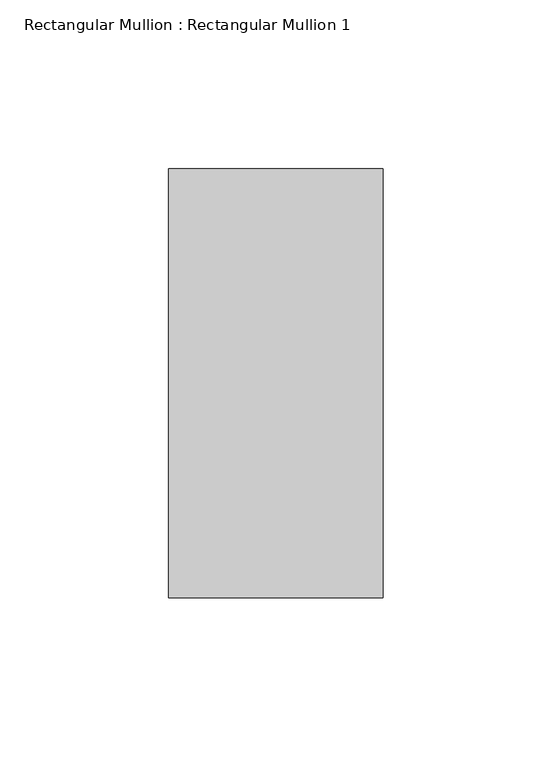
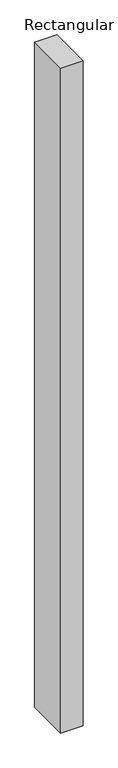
"""IFC4 building model written with IfcOpenShell, lengths in millimetres: member geometry, Rectangular Mullion : Rectangular Mullion 1."""

from ifc_helpers import new_model, si_unit, frame, origin, place, context, project, spatial, polyline, outline, extrude, source, transform, mapped, element, save


def rectangular_mullion_rectangular_mullion_1_ea211896(model_context):
    return source(origin(), model_context, "Body", "SweptSolid", [
        extrude(outline(polyline([(31.75, 63.5), (31.75, -63.5), (-31.75, -63.5), (-31.75, 63.5), (31.75, 63.5)])), frame((0.0, 0.0, -1987.55), z_axis=(0.0, 0.0, 1.0), x_axis=(1.0, 0.0, 0.0)), (0.0, 0.0, 1.0), 1987.55),
    ])


if __name__ == "__main__":
    model = new_model("IFC4")
    model_context = context("Model", 3, world=origin())
    ifc_project = project(units=[si_unit("LENGTHUNIT", "METRE", prefix="MILLI")], contexts=[model_context])
    site = spatial("IfcSite", under=ifc_project)
    building = spatial("IfcBuilding", under=site)
    placement = place(None, origin())
    rectangular_mullion_rectangular_mullion_1_shape = rectangular_mullion_rectangular_mullion_1_ea211896(model_context)
    element("IfcMember", 1, ObjectType="Rectangular Mullion : Rectangular Mullion 1", at=placement, inside=building, context=model_context, shape_type="MappedRepresentation", body=[
        mapped(rectangular_mullion_rectangular_mullion_1_shape, transform((0.0, 0.0, 0.0), x_axis=(1.0, 0.0, 0.0), y_axis=(0.0, 1.0, 0.0), z_axis=(0.0, 0.0, 1.0))),
    ])
    save(model, "model.ifc")
